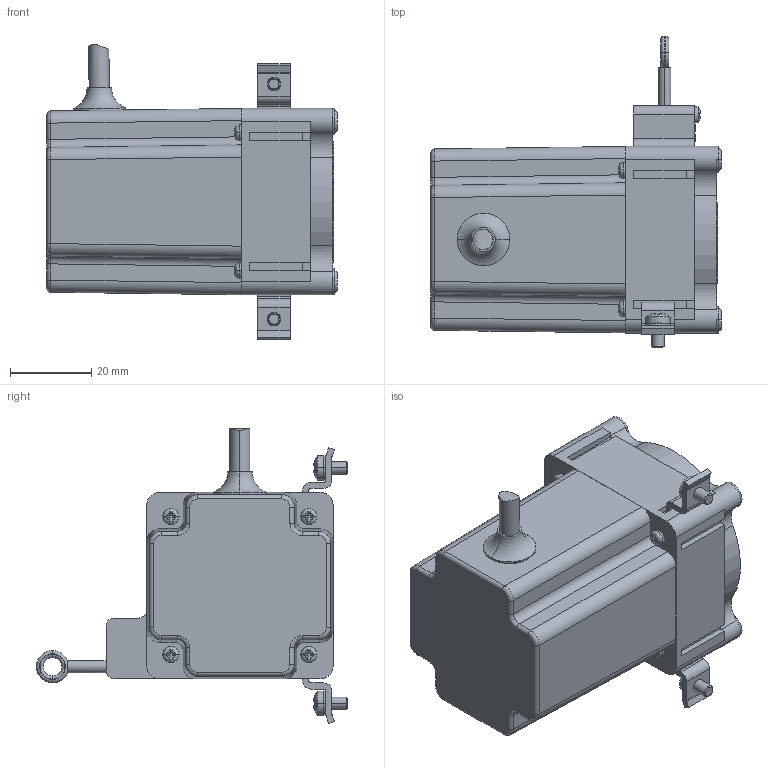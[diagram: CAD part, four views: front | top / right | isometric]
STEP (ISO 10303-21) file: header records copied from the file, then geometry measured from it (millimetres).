
FILE_DESCRIPTION((''),'2;1');
FILE_NAME('WPS-1250-MK46-CR-I10','2016-04-25T',('15000483'),(''),'PRO/ENGINEER BY PARAMETRIC TECHNOLOGY CORPORATION, 2015200','PRO/ENGINEER BY PARAMETRIC TECHNOLOGY CORPORATION, 2015200','');
FILE_SCHEMA(('CONFIG_CONTROL_DESIGN'));
Length unit declared in the file: millimetre
Products named in the file (1): WPS-1250-MK46-CR-I10
Bounding box: 71.6 x 76.8 x 72.74 mm (x, y, z)
Volume: 34187.3 mm3; surface area: 38227.2 mm2
Topology: 2 solids, 4 shells, 1097 faces, 3100 edges, 2039 vertices
Faces by surface type: plane 590, cylinder 274, extrusion 155, torus 28, bspline 24, cone 12, revolution 8, sphere 6
Entity records: 40276 total; most frequent: CARTESIAN_POINT 12037, ORIENTED_EDGE 6196, DIRECTION 5391, EDGE_CURVE 3098, VERTEX_POINT 2039, AXIS2_PLACEMENT_3D 1801, VECTOR 1781, LINE 1626
